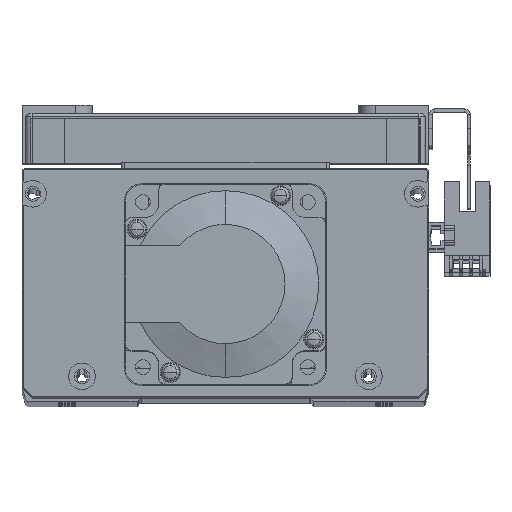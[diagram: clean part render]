
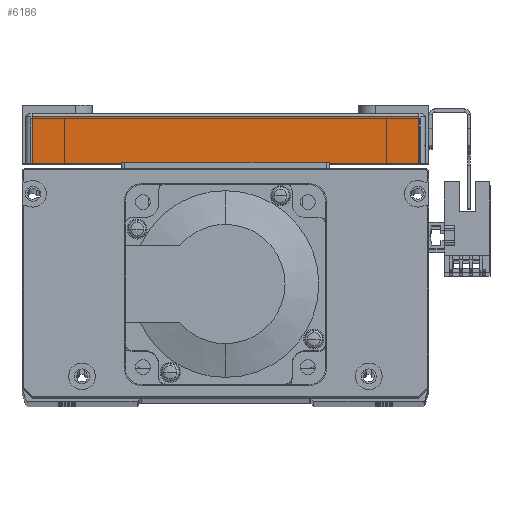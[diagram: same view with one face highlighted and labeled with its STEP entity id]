
A CAD part, top view. The second image highlights one B-rep face of the part: STEP entity #6186.
In plain terms, the highlighted planar face has unit normal (0, 0, 1) as drawn and (1, 0, 0) by its records, which use the part's own axes.
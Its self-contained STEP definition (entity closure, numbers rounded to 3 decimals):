
#3637 = VERTEX_POINT ( 'NONE', #11556 ) ;
#3645 = VERTEX_POINT ( 'NONE', #11467 ) ;
#3655 = VERTEX_POINT ( 'NONE', #11549 ) ;
#3662 = VERTEX_POINT ( 'NONE', #11514 ) ;
#6186 = ADVANCED_FACE ( 'NONE', ( #37216 ), #29521, .F. ) ;
#9626 = VECTOR ( 'NONE', #28531, 1000. ) ;
#9643 = LINE ( 'NONE', #28472, #9650 ) ;
#9650 = VECTOR ( 'NONE', #28500, 1000. ) ;
#9666 = LINE ( 'NONE', #28512, #9626 ) ;
#9699 = LINE ( 'NONE', #28610, #9726 ) ;
#9726 = VECTOR ( 'NONE', #28625, 1000. ) ;
#9780 = VECTOR ( 'NONE', #28649, 1000. ) ;
#9789 = LINE ( 'NONE', #28647, #9780 ) ;
#11467 = CARTESIAN_POINT ( 'NONE',  ( 82.5, 14., -58. ) ) ;
#11514 = CARTESIAN_POINT ( 'NONE',  ( 82.5, 0., 58. ) ) ;
#11549 = CARTESIAN_POINT ( 'NONE',  ( 82.5, 0., -58. ) ) ;
#11556 = CARTESIAN_POINT ( 'NONE',  ( 82.5, 14., 58. ) ) ;
#22422 = EDGE_CURVE ( 'NONE', #3645, #3637, #9643, .T. ) ;
#22430 = EDGE_CURVE ( 'NONE', #3637, #3662, #9666, .T. ) ;
#22465 = EDGE_CURVE ( 'NONE', #3655, #3645, #9699, .T. ) ;
#22482 = EDGE_CURVE ( 'NONE', #3662, #3655, #9789, .T. ) ;
#26000 = EDGE_LOOP ( 'NONE', ( #55371, #55453, #55439, #55457 ) ) ;
#28472 = CARTESIAN_POINT ( 'NONE',  ( 82.5, 14., 58. ) ) ;
#28500 = DIRECTION ( 'NONE',  ( 0., 0., 1. ) ) ;
#28512 = CARTESIAN_POINT ( 'NONE',  ( 82.5, 15., 58. ) ) ;
#28531 = DIRECTION ( 'NONE',  ( 0., -1., 0. ) ) ;
#28610 = CARTESIAN_POINT ( 'NONE',  ( 82.5, 15., -58. ) ) ;
#28625 = DIRECTION ( 'NONE',  ( 0., 1., 0. ) ) ;
#28647 = CARTESIAN_POINT ( 'NONE',  ( 82.5, 0., -60. ) ) ;
#28649 = DIRECTION ( 'NONE',  ( 0., 0., -1. ) ) ;
#29490 = DIRECTION ( 'NONE',  ( -1., 0., 0. ) ) ;
#29494 = CARTESIAN_POINT ( 'NONE',  ( 82.5, 15., -60. ) ) ;
#29497 = DIRECTION ( 'NONE',  ( 0., 0., 1. ) ) ;
#29521 = PLANE ( 'NONE',  #32014 ) ;
#32014 = AXIS2_PLACEMENT_3D ( 'NONE', #29494, #29490, #29497 ) ;
#37216 = FACE_OUTER_BOUND ( 'NONE', #26000, .T. ) ;
#55371 = ORIENTED_EDGE ( 'NONE', *, *, #22465, .T. ) ;
#55439 = ORIENTED_EDGE ( 'NONE', *, *, #22430, .T. ) ;
#55453 = ORIENTED_EDGE ( 'NONE', *, *, #22422, .T. ) ;
#55457 = ORIENTED_EDGE ( 'NONE', *, *, #22482, .T. ) ;
